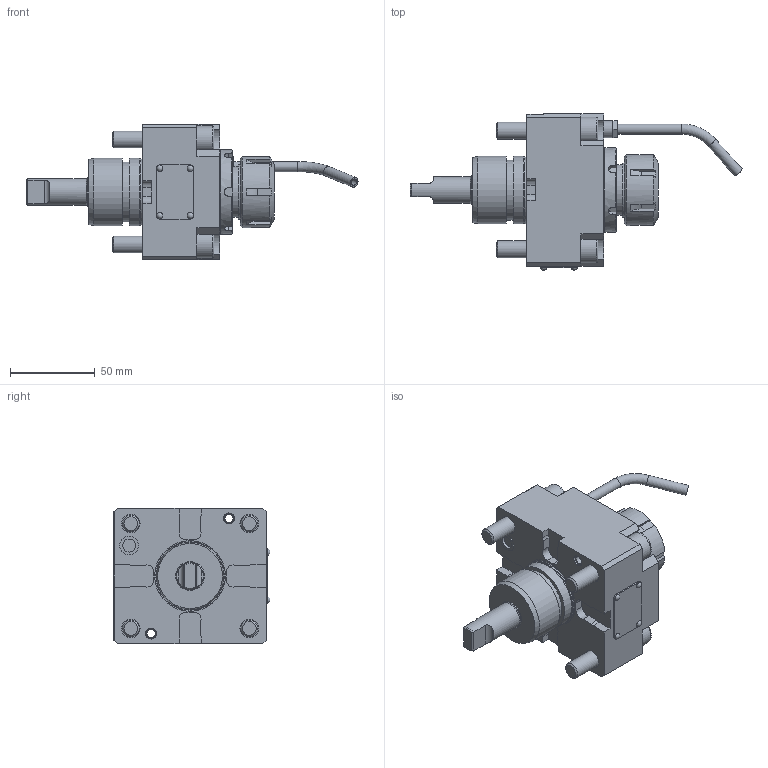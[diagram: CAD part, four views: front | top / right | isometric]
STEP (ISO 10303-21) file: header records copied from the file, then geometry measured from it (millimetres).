
FILE_DESCRIPTION(/* description */ (''),/* implementation_level */ '2;1');
FILE_NAME(/* name */ '173741',/* time_stamp */ '2023-04-20T09:59:34+02:00',/* author */ (''),/* organization */ (''),/* preprocessor_version */ 'ST-DEVELOPER v16.5',/* originating_system */ 'HiCAD 2017 2201.0 Build 268',/* authorisation */ '');
FILE_SCHEMA (('AUTOMOTIVE_DESIGN { 1 0 10303 214 1 1 1 1 }'));
Length unit declared in the file: millimetre
Products named in the file (13): Root; Teil; GEWINDE; DIN 13-M32x1,5; ; DIN 76-M6; DIN 13-M6
Assembly tree (12 placements, depth 3):
  Root
    Teil
      GEWINDE
      DIN 13-M32x1,5
      DIN 13-M32x1,5
      DIN 13-M32x1,5
      DIN 13-M32x1,5
      DIN 13-M32x1,5
      DIN 13-M32x1,5
      
      DIN 76-M6
      DIN 13-M6
      DIN 13-M6
Bounding box: 196.17 x 92.29 x 80 mm (x, y, z)
Volume: 383568.8 mm3; surface area: 81802.1 mm2
Topology: 13 solids, 17 shells, 412 faces, 1051 edges, 682 vertices
Faces by surface type: plane 227, cylinder 117, cone 43, torus 21, sphere 4
Full cylindrical faces by diameter (mm): 2 x4, 2.2 x4, 4 x2, 5 x5, 6 x9, 6.5 x4, 7.65 x1, 8.16 x8, 8.773 x2, 10 x9, 11 x4, 11.01 x1, 11.1 x1, 15.75 x1, 16 x5, 18.2 x1, 19.976 x1, 30 x1, 30.16 x1, 30.5 x2, 32 x4, 33.351 x1, 35.4 x1, 39.5 x1, 39.9 x2, 40 x1, 42 x1, 43.8 x1, 50 x1
Entity records: 23817 total; most frequent: CARTESIAN_POINT 4398, DIRECTION 2056, PRESENTATION_STYLE_ASSIGNMENT 1901, OVER_RIDING_STYLED_ITEM 1889, COLOUR_RGB 1747, DRAUGHTING_PRE_DEFINED_CURVE_FONT 1740, CURVE_STYLE 1740, ORIENTED_EDGE 1740
